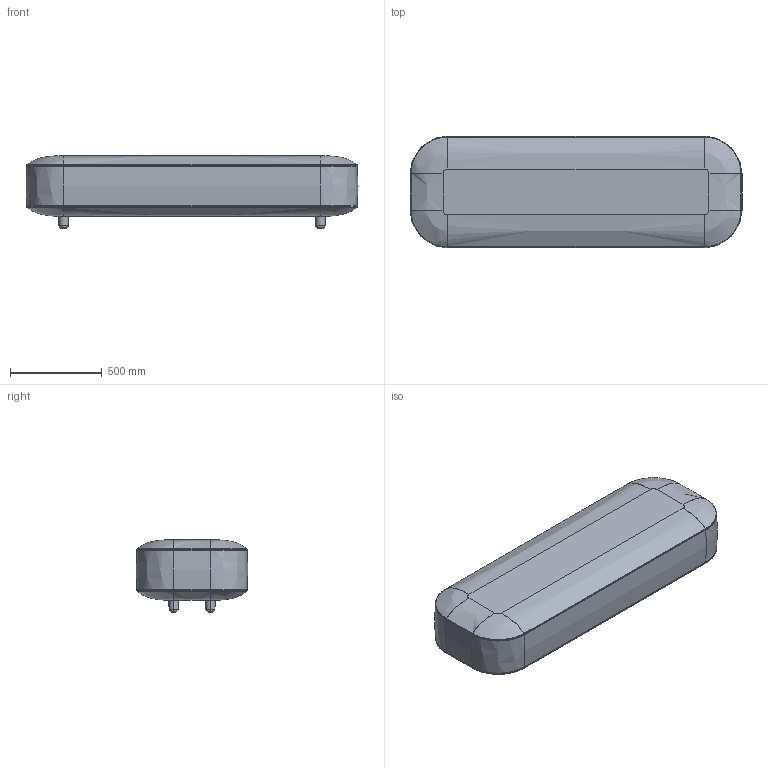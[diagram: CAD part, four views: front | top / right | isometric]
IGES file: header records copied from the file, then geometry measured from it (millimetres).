
Start section: SolidWorks IGES file using analytic representation for surfaces
Global section: file name: C:\Users\Usuario\Dropbox\Viccarbe\ARCHIVOS ENVIAR SILVIA\3D\Common\5- CO180L (180X60)\IGES\CO180L.IGS; native system: SolidWorks 2013; preprocessor: SolidWorks 2013; author: Usuario; date: 130514.124345; units: millimetre
Bounding box: 1810 x 610 x 395 mm (x, y, z)
Surface area: 7429051.6 mm2 (no closed solid volume)
Topology: 0 solids, 0 shells, 118 faces, 1260 edges, 1260 vertices
Faces by surface type: bspline 90, revolution 28
